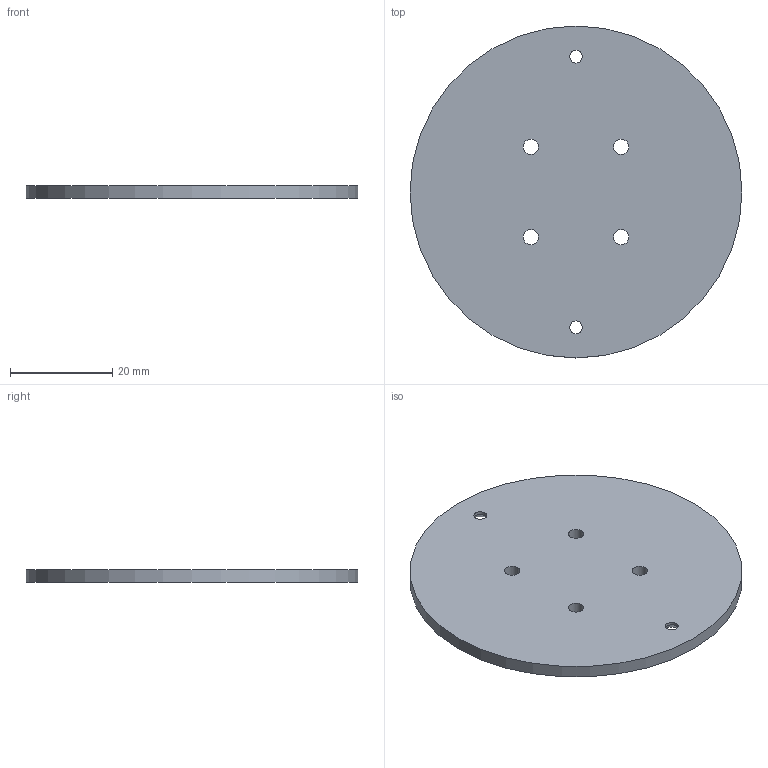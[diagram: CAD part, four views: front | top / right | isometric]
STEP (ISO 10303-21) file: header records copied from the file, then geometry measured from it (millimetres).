
FILE_DESCRIPTION(/* description */ (''),/* implementation_level */ '2;1');
FILE_NAME(/* name */ 'G:\Unidades compartidas\PROYECTO PANAMA\Archivos para pagina web\Cansat_Estandar\STEP\Tapa Cansat inferior.stp',/* time_stamp */ '2022-06-07T17:48:52-05:00',/* author */ ('pined'),/* organization */ (''),/* preprocessor_version */ 'ST-DEVELOPER v18.1',/* originating_system */ 'Autodesk Inventor 2022',/* authorisation */ '');
FILE_SCHEMA (('AUTOMOTIVE_DESIGN { 1 0 10303 214 3 1 1 }'));
Length unit declared in the file: millimetre
Products named in the file (1): Tapa para exp externo
Bounding box: 65 x 65 x 2.5 mm (x, y, z)
Volume: 8157.8 mm3; surface area: 7196.4 mm2
Topology: 1 solids, 1 shells, 11 faces, 25 edges, 16 vertices
Faces by surface type: cylinder 7, cone 2, plane 2
Full cylindrical faces by diameter (mm): 2.5 x2, 3 x4, 65 x1
Entity records: 404 total; most frequent: DIRECTION 65, CARTESIAN_POINT 53, ORIENTED_EDGE 50, AXIS2_PLACEMENT_3D 28, EDGE_CURVE 25, EDGE_LOOP 23, CIRCLE 16, VERTEX_POINT 16
